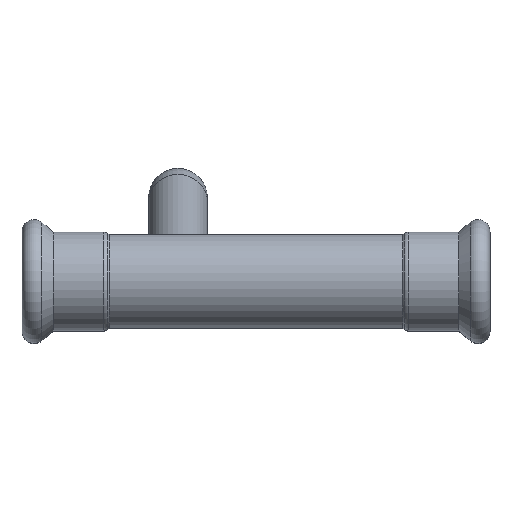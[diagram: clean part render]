
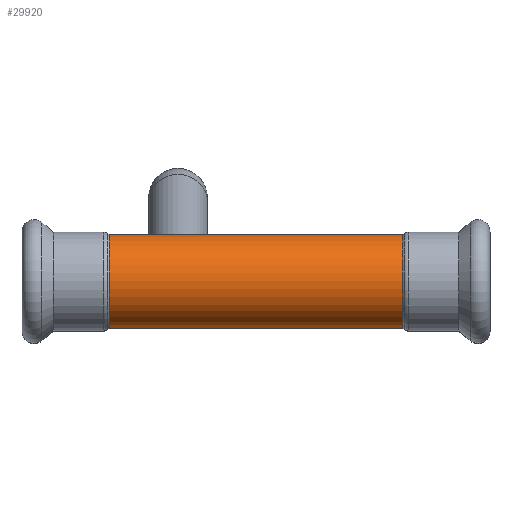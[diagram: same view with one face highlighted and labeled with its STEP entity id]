
A CAD part, top view. The second image highlights one B-rep face of the part: STEP entity #29920.
In plain terms, the highlighted cylindrical face has radius 12 mm (diameter 24 mm), a partial arc.
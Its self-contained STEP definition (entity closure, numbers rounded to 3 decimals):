
#2080=CARTESIAN_POINT('',(-62.725,133.711,
0.));
#2090=VERTEX_POINT('',#2080);
#2270=CARTESIAN_POINT('',(-62.725,157.711,0.));
#2280=VERTEX_POINT('',#2270);
#2310=CARTESIAN_POINT('',(-62.725,145.711,0.));
#2320=DIRECTION('',(1.,0.,0.));
#2330=DIRECTION('',(0.,-1.,0.));
#2340=AXIS2_PLACEMENT_3D('',#2310,#2320,#2330);
#2350=CIRCLE('',#2340,12.);
#6420=CARTESIAN_POINT('',(12.634,133.711,0.));
#6430=VERTEX_POINT('',#6420);
#6460=CARTESIAN_POINT('',(12.634,145.711,0.));
#6470=DIRECTION('',(1.,0.,0.));
#6480=DIRECTION('',(0.,-1.,0.));
#6490=AXIS2_PLACEMENT_3D('',#6460,#6470,#6480);
#6500=CIRCLE('',#6490,12.);
#6510=CARTESIAN_POINT('',(12.634,157.711,
0.));
#6520=VERTEX_POINT('',#6510);
#26590=CARTESIAN_POINT('',(-25.045,145.711,0.));
#26600=DIRECTION('',(-1.,0.,0.));
#26610=DIRECTION('',(0.,1.,0.));
#26620=AXIS2_PLACEMENT_3D('',#26590,#26600,#26610);
#26630=CYLINDRICAL_SURFACE('',#26620,12.);
#26700=CARTESIAN_POINT('',(-25.045,157.711,0.));
#26710=DIRECTION('',(-1.,0.,0.));
#26720=VECTOR('',#26710,1.);
#26730=LINE('',#26700,#26720);
#26740=EDGE_CURVE('',#6520,#2280,#26730,.T.);
#26770=CARTESIAN_POINT('',(-25.045,133.711,
0.));
#26780=DIRECTION('',(-1.,0.,0.));
#26790=VECTOR('',#26780,1.);
#26800=LINE('',#26770,#26790);
#26810=EDGE_CURVE('',#6430,#2090,#26800,.T.);
#26900=EDGE_CURVE('',#2090,#2280,#2350,.T.);
#29850=ORIENTED_EDGE('',*,*,#26900,.T.);
#29860=ORIENTED_EDGE('',*,*,#26810,.T.);
#29870=EDGE_CURVE('',#6430,#6520,#6500,.T.);
#29880=ORIENTED_EDGE('',*,*,#29870,.F.);
#29890=ORIENTED_EDGE('',*,*,#26740,.F.);
#29900=EDGE_LOOP('',(#29890,#29880,#29860,#29850));
#29910=FACE_OUTER_BOUND('',#29900,.T.);
#29920=ADVANCED_FACE('',(#29910),#26630,.T.);
